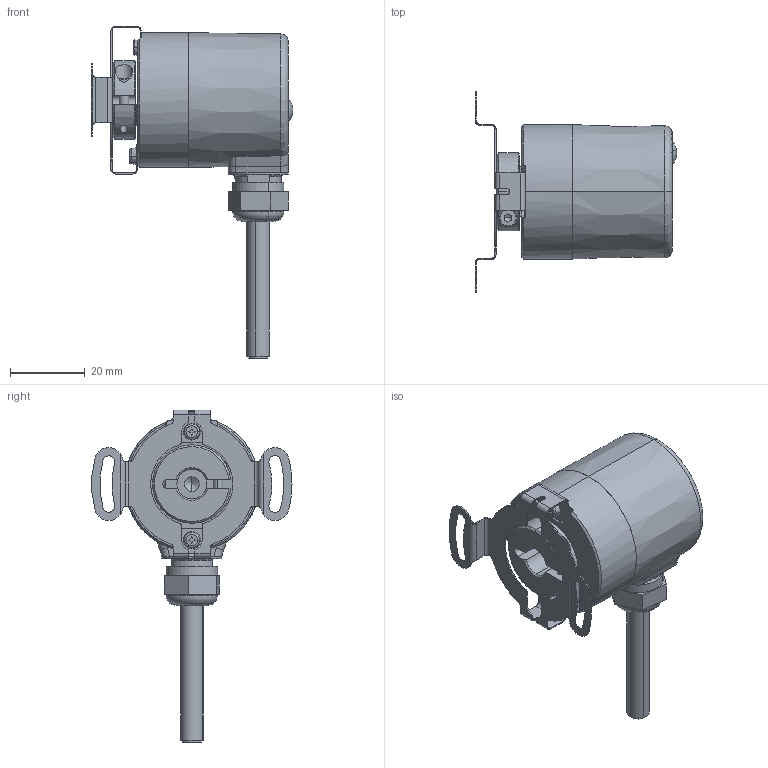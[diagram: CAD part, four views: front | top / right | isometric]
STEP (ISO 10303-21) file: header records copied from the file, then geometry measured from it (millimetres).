
FILE_DESCRIPTION (( 'STEP AP214' ), '1' );
FILE_NAME ('3671.54X2.XXXX.STEP', '2008-09-18T04:36:25', ( 'admin' ), ( 'Fritz Kübler GmbH' ), 'SwSTEP 2.0', 'SolidWorks 2008', '' );
FILE_SCHEMA (( 'AUTOMOTIVE_DESIGN' ));
Length unit declared in the file: millimetre
Products named in the file (1): 3671.54X2.XXXX
Bounding box: 53.99 x 53.5 x 88.8 mm (x, y, z)
Volume: 24330.4 mm3; surface area: 24825.3 mm2
Topology: 12 solids, 12 shells, 663 faces, 1601 edges, 995 vertices
Faces by surface type: cylinder 262, plane 192, cone 129, torus 67, bspline 7, sphere 6
Entity records: 27599 total; most frequent: CARTESIAN_POINT 4405, DIRECTION 3530, ORIENTED_EDGE 3158, EDGE_CURVE 1579, AXIS2_PLACEMENT_3D 1433, VERTEX_POINT 995, CIRCLE 776, EDGE_LOOP 742
